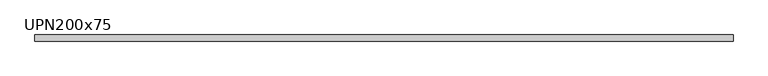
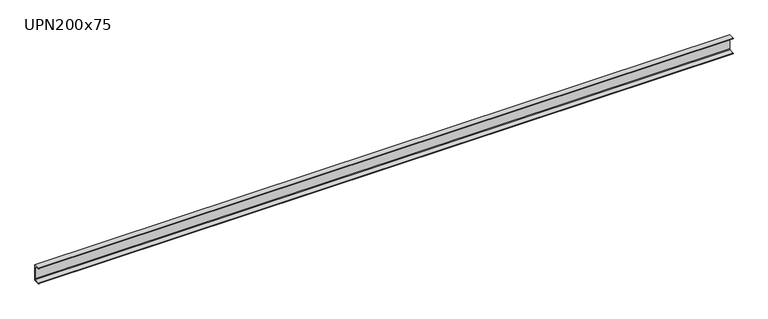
"""IFC4 building model written with IfcOpenShell, lengths in millimetres: beam geometry, M_MC Shapes : UPN200x75."""

import ifcopenshell
import ifcopenshell.guid

model = None  # the IFC model being written
_history = None  # IfcOwnerHistory: only IFC2X3 demands one
_inside = {}  # id of a spatial element -> (the spatial element, [elements in it])
_under = {}  # id of a project, library or spatial element -> (it, [spatial elements below it])
_declared = {}  # id of a project -> (the project, [libraries it declares])
_typed = {}  # id of a type object -> (the type object, [elements of that type])
_made_of = {}  # id of a material, layer set ... -> (it, [elements and type objects made of it])


def new_model(schema):
    """Start an empty IFC model of exactly this schema.

    Asked for "IFC4X3", IfcOpenShell would pick the latest addendum, in which some entities
    have other attributes; the version numbers below select the first issue.
    IFC2X3 requires an IfcOwnerHistory on every rooted entity: one is made here for all.
    """
    global model, _history
    if schema == "IFC4X3":
        model = ifcopenshell.file(schema_version=(4, 3, 0, 0))
    else:
        model = ifcopenshell.file(schema=schema)
    _inside.clear()
    _under.clear()
    _declared.clear()
    _typed.clear()
    _made_of.clear()
    _history = None
    if model.schema == "IFC2X3":
        org = make("IfcOrganization", Name="unknown")
        user = make(
            "IfcPersonAndOrganization",
            ThePerson=make("IfcPerson", FamilyName="unknown"),
            TheOrganization=org,
        )
        app = make(
            "IfcApplication",
            ApplicationDeveloper=org,
            Version="unknown",
            ApplicationFullName="unknown",
            ApplicationIdentifier="unknown",
        )
        _history = make(
            "IfcOwnerHistory",
            OwningUser=user,
            OwningApplication=app,
            ChangeAction="ADDED",
            CreationDate=0,
        )
    return model


def make(cls, **values):
    """One entity of the class cls with the attributes given. An attribute that is None is left unset."""
    return model.create_entity(
        cls, **{name: value for name, value in values.items() if value is not None}
    )


def rooted(cls, **values):
    """An entity with a GlobalId (a new one), such as an element, a storey or a relation."""
    return make(cls, GlobalId=ifcopenshell.guid.new(), OwnerHistory=_history, **values)


def si_unit(unit_type, name, prefix=None):
    """IfcSIUnit, for example si_unit("LENGTHUNIT", "METRE", prefix="MILLI")."""
    return make("IfcSIUnit", UnitType=unit_type, Prefix=prefix, Name=name)


def assignment(units):
    """IfcUnitAssignment: the units of a project."""
    return None if units is None else make("IfcUnitAssignment", Units=units)


def point(xyz):
    """IfcCartesianPoint."""
    return None if xyz is None else make("IfcCartesianPoint", Coordinates=xyz)


def direction(xyz):
    """IfcDirection."""
    return None if xyz is None else make("IfcDirection", DirectionRatios=xyz)


def frame(location, z_axis=None, x_axis=None):
    """IfcAxis2Placement3D, a coordinate frame: its origin and axes. An axis left out is left unset."""
    return make(
        "IfcAxis2Placement3D",
        Location=point(location),
        Axis=direction(z_axis),
        RefDirection=direction(x_axis),
    )


def frame_2d(location, x_axis=None):
    """IfcAxis2Placement2D, a coordinate frame in the plane: its origin and x axis."""
    return make(
        "IfcAxis2Placement2D", Location=point(location), RefDirection=direction(x_axis)
    )


def origin():
    """The frame at (0, 0, 0) with its axes left unset."""
    return frame((0.0, 0.0, 0.0))


def place(relative_to, where):
    """IfcLocalPlacement: puts the frame where relative to a parent placement (None: the world)."""
    return make(
        "IfcLocalPlacement", PlacementRelTo=relative_to, RelativePlacement=where
    )


def context(
    kind, dimensions, precision=None, world=None, true_north=None, identifier=None
):
    """IfcGeometricRepresentationContext, for example the 3D "Model" context."""
    return make(
        "IfcGeometricRepresentationContext",
        ContextIdentifier=identifier,
        ContextType=kind,
        CoordinateSpaceDimension=dimensions,
        Precision=precision,
        WorldCoordinateSystem=world,
        TrueNorth=true_north,
    )


def project(units=None, contexts=None):
    """IfcProject with its units and contexts."""
    return rooted(
        "IfcProject",
        Name="project",
        RepresentationContexts=contexts,
        UnitsInContext=assignment(units),
    )


def spatial(cls, under=None, at=None, **own):
    """A site, building, storey or space (cls), placed at a placement, below another one or the project."""
    s = rooted(cls, ObjectPlacement=at, **own)
    if under is not None:
        _under.setdefault(under.id(), (under, []))[1].append(s)
    return s


def polyline(points):
    """IfcPolyline through the points."""
    return make("IfcPolyline", Points=[point(p) for p in points])


def circle_curve(where, radius):
    """IfcCircle in the frame where."""
    return make("IfcCircle", Position=where, Radius=radius)


def trimmed(basis, trim1, trim2, sense, master):
    """IfcTrimmedCurve: the piece of a basis curve between two trims."""
    return make(
        "IfcTrimmedCurve",
        BasisCurve=basis,
        Trim1=trim1,
        Trim2=trim2,
        SenseAgreement=sense,
        MasterRepresentation=master,
    )


def segment(curve, same_sense, transition):
    """IfcCompositeCurveSegment."""
    return make(
        "IfcCompositeCurveSegment",
        Transition=transition,
        SameSense=same_sense,
        ParentCurve=curve,
    )


def composite_curve(segments, self_intersect=None):
    """IfcCompositeCurve: segments joined end to end."""
    return make("IfcCompositeCurve", Segments=segments, SelfIntersect=self_intersect)


def outline(outer, holes=None, kind="AREA"):
    """IfcArbitraryClosedProfileDef: a profile drawn as a closed curve; with holes, ...WithVoids."""
    if holes is None:
        return make("IfcArbitraryClosedProfileDef", ProfileType=kind, OuterCurve=outer)
    return make(
        "IfcArbitraryProfileDefWithVoids",
        ProfileType=kind,
        OuterCurve=outer,
        InnerCurves=holes,
    )


def extrude(swept, where, along, depth):
    """IfcExtrudedAreaSolid: the profile swept, set in the frame where, extruded along a direction by depth."""
    return make(
        "IfcExtrudedAreaSolid",
        SweptArea=swept,
        Position=where,
        ExtrudedDirection=direction(along),
        Depth=depth,
    )


def shape(context_of_items, identifier, shape_type, items):
    """IfcShapeRepresentation: the items that make up one representation, for example the "Body"."""
    return make(
        "IfcShapeRepresentation",
        ContextOfItems=context_of_items,
        RepresentationIdentifier=identifier,
        RepresentationType=shape_type,
        Items=items,
    )


def source(mapping_origin, context_of_items, identifier, shape_type, items):
    """IfcRepresentationMap: a shape defined once, which mapped items show again and again."""
    return make(
        "IfcRepresentationMap",
        MappingOrigin=mapping_origin,
        MappedRepresentation=shape(context_of_items, identifier, shape_type, items),
    )


def transform(
    local_origin,
    x_axis=None,
    y_axis=None,
    z_axis=None,
    scale=None,
    scale2=None,
    scale3=None,
    uniform=True,
):
    """IfcCartesianTransformationOperator3D, or its non-uniform kind. x_axis, y_axis, z_axis: its Axis1, 2, 3."""
    if uniform:
        return make(
            "IfcCartesianTransformationOperator3D",
            Axis1=direction(x_axis),
            Axis2=direction(y_axis),
            LocalOrigin=point(local_origin),
            Scale=scale,
            Axis3=direction(z_axis),
        )
    return make(
        "IfcCartesianTransformationOperator3DnonUniform",
        Axis1=direction(x_axis),
        Axis2=direction(y_axis),
        LocalOrigin=point(local_origin),
        Scale=scale,
        Axis3=direction(z_axis),
        Scale2=scale2,
        Scale3=scale3,
    )


def mapped(mapping_source, mapping_target):
    """IfcMappedItem: shows the shape of a source again, moved by a transform."""
    return make(
        "IfcMappedItem", MappingSource=mapping_source, MappingTarget=mapping_target
    )


def made_of(thing, what):
    """Note that an element or type object is made of a material, layer set ...; save() writes the relation."""
    if what is not None:
        _made_of.setdefault(what.id(), (what, []))[1].append(thing)
    return thing


def element(
    cls,
    number,
    at=None,
    inside=None,
    cuts=None,
    type_object=None,
    material=None,
    context=None,
    identifier="Body",
    shape_type=None,
    held_by="IfcProductDefinitionShape",
    body=None,
    shapes=None,
    **own,
):
    """One element of the class cls, such as IfcWall. Its Tag is "e" and its number.

    at: its placement. inside: the storey or other place that contains it. cuts: it is an
    opening in that element (IfcRelVoidsElement). A single representation is given by context,
    identifier, shape_type and body (its items); several are given by shapes. held_by: the class
    of the entity that holds the representations. save() writes the other relations.
    """
    e = rooted(cls, Tag="e%d" % number, ObjectPlacement=at, **own)
    if body is not None:
        shapes = [shape(context, identifier, shape_type, body)]
    if shapes is not None:
        e.Representation = make(held_by, Representations=shapes)
    if inside is not None:
        _inside.setdefault(inside.id(), (inside, []))[1].append(e)
    if cuts is not None:
        rooted(
            "IfcRelVoidsElement", RelatingBuildingElement=cuts, RelatedOpeningElement=e
        )
    if type_object is not None:
        _typed.setdefault(type_object.id(), (type_object, []))[1].append(e)
    return made_of(e, material)


def aggregate(whole, parts):
    """IfcRelAggregates: a whole, such as a stair, and the parts it consists of."""
    return rooted("IfcRelAggregates", RelatingObject=whole, RelatedObjects=parts)


def save(model, path):
    """Write the relations noted so far, then the file.

    IfcRelAggregates (storeys below a building ...), IfcRelContainedInSpatialStructure (elements
    in a storey), IfcRelDefinesByType, IfcRelAssociatesMaterial and IfcRelDeclares: one each for
    every whole, place, type object, material and project.
    """
    for whole, parts in _under.values():
        aggregate(whole, parts)
    for where, things in _inside.values():
        rooted(
            "IfcRelContainedInSpatialStructure",
            RelatedElements=things,
            RelatingStructure=where,
        )
    for kind, things in _typed.values():
        rooted("IfcRelDefinesByType", RelatedObjects=things, RelatingType=kind)
    for what, things in _made_of.values():
        rooted("IfcRelAssociatesMaterial", RelatedObjects=things, RelatingMaterial=what)
    for by, libraries in _declared.values():
        rooted("IfcRelDeclares", RelatingContext=by, RelatedDefinitions=libraries)
    model.write(path)


def upn200x75_de95b273(model_context):
    return source(origin(), model_context, "Body", "SweptSolid", [
        extrude(outline(composite_curve([segment(polyline([(10.9, 100.0), (10.9, -100.0), (-64.1, -100.0), (-64.1, -99.0253247)]), True, "CONTINUOUS"), segment(trimmed(circle_curve(frame_2d((-60.15, -99.0253247)), 3.95), [point((-64.1, -99.0253247))], [point((-60.7993773, -95.1290689))], False, "CARTESIAN"), True, "CONTINUOUS"), segment(polyline([(-60.7993773, -95.1290689), (-0.2512455, -85.0376935)]), True, "CONTINUOUS"), segment(trimmed(circle_curve(frame_2d((-1.55, -77.2451819)), 7.9), [point((-0.2512455, -85.0376935))], [point((6.35, -77.2451819))], True, "CARTESIAN"), True, "CONTINUOUS"), segment(polyline([(6.35, -77.2451819), (6.35, 77.2451819)]), True, "CONTINUOUS"), segment(trimmed(circle_curve(frame_2d((-1.55, 77.2451819)), 7.9), [point((6.35, 77.2451819))], [point((-0.2512455, 85.0376935))], True, "CARTESIAN"), True, "CONTINUOUS"), segment(polyline([(-0.2512455, 85.0376935), (-60.7993773, 95.1290689)]), True, "CONTINUOUS"), segment(trimmed(circle_curve(frame_2d((-60.15, 99.0253247)), 3.95), [point((-60.7993773, 95.1290689))], [point((-64.1, 99.0253247))], False, "CARTESIAN"), True, "CONTINUOUS"), segment(polyline([(-64.1, 99.0253247), (-64.1, 100.0), (10.9, 100.0)]), True, "CONTINUOUS")], self_intersect=False)), frame((-4267.35, 0.0, 0.0), z_axis=(1.0, 0.0, 0.0), x_axis=(0.0, 1.0, 0.0)), (0.0, 0.0, 1.0), 8559.7),
    ])


if __name__ == "__main__":
    model = new_model("IFC4")
    model_context = context("Model", 3, world=origin())
    ifc_project = project(units=[si_unit("LENGTHUNIT", "METRE", prefix="MILLI")], contexts=[model_context])
    site = spatial("IfcSite", under=ifc_project)
    building = spatial("IfcBuilding", under=site)
    placement = place(None, origin())
    upn200x75_shape = upn200x75_de95b273(model_context)
    element("IfcBeam", 1, ObjectType="M_MC Shapes : UPN200x75", at=placement, inside=building, context=model_context, shape_type="MappedRepresentation", body=[
        mapped(upn200x75_shape, transform((0.0, 0.0, 0.0), x_axis=(1.0, 0.0, 0.0), y_axis=(0.0, 1.0, 0.0), z_axis=(0.0, 0.0, 1.0))),
    ])
    save(model, "model.ifc")
